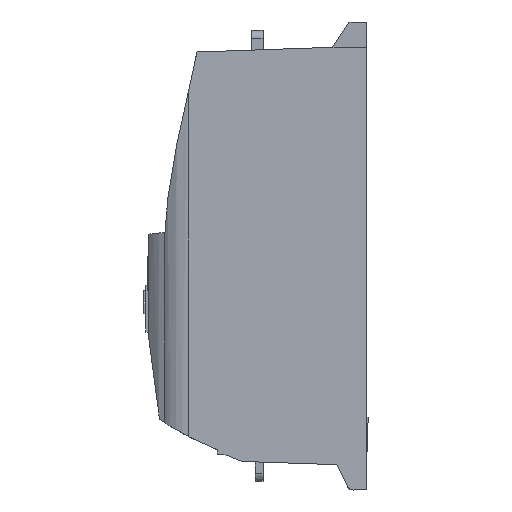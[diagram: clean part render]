
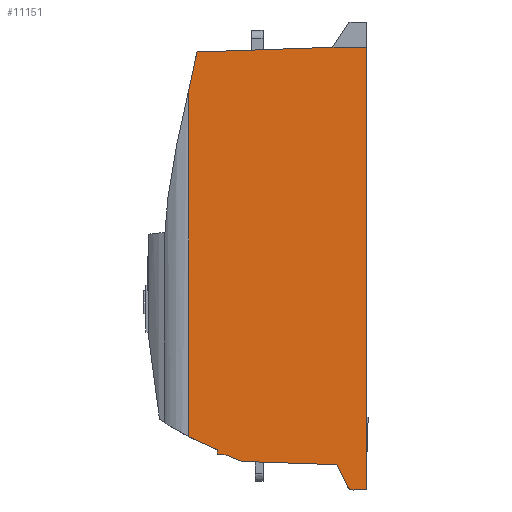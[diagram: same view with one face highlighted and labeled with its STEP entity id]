
A CAD part, left-side view. The second image highlights one B-rep face of the part: STEP entity #11151.
In plain terms, the highlighted planar face has unit normal (-0.999, -0.035, 0).
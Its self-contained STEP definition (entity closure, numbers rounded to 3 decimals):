
#207=DIRECTION('',(0.,0.,-1.));
#208=VECTOR('',#207,458.743);
#209=CARTESIAN_POINT('',(-110.52,0.2,209.072));
#210=LINE('',#209,#208);
#351=DIRECTION('',(-0.015,0.439,0.899));
#352=VECTOR('',#351,25.467);
#353=CARTESIAN_POINT('',(-111.208,19.908,-246.798));
#354=LINE('',#353,#352);
#435=DIRECTION('',(-0.035,0.999,0.035));
#436=VECTOR('',#435,98.727);
#437=CARTESIAN_POINT('',(-111.598,31.076,-223.914));
#438=LINE('',#437,#436);
#1069=DIRECTION('',(-0.035,0.999,0.));
#1070=VECTOR('',#1069,36.022);
#1071=CARTESIAN_POINT('',(-110.52,0.2,
209.072));
#1072=LINE('',#1071,#1070);
#1113=DIRECTION('',(-0.035,0.999,-0.035));
#1114=VECTOR('',#1113,14.124);
#1115=CARTESIAN_POINT('',(-110.52,0.2,
-249.671));
#1116=LINE('',#1115,#1114);
#1189=CARTESIAN_POINT('',(-111.013,14.307,
-250.163));
#1190=CARTESIAN_POINT('',(-111.035,14.956,
-250.186));
#1191=CARTESIAN_POINT('',(-111.076,16.13,
-250.026));
#1192=CARTESIAN_POINT('',(-111.129,17.643,
-249.373));
#1193=CARTESIAN_POINT('',(-111.174,18.931,
-248.344));
#1194=CARTESIAN_POINT('',(-111.198,19.624,
-247.382));
#1195=CARTESIAN_POINT('',(-111.208,19.908,
-246.798));
#1354=CARTESIAN_POINT('',(-115.039,129.682,
-220.471));
#1355=CARTESIAN_POINT('',(-115.259,135.98,
-218.327));
#1356=CARTESIAN_POINT('',(-115.475,142.164,
-215.893));
#1357=CARTESIAN_POINT('',(-115.687,148.233,
-213.168));
#1367=DIRECTION('',(-0.035,0.999,0.));
#1368=VECTOR('',#1367,7.238);
#1369=CARTESIAN_POINT('',(-115.687,148.233,
-213.168));
#1370=LINE('',#1369,#1368);
#1379=DIRECTION('',(0.,0.,1.));
#1380=VECTOR('',#1379,5.067);
#1381=CARTESIAN_POINT('',(-115.939,155.467,
-213.168));
#1382=LINE('',#1381,#1380);
#1486=CARTESIAN_POINT('',(-115.939,155.467,
-208.1));
#1487=CARTESIAN_POINT('',(-116.289,165.495,
-204.171));
#1488=CARTESIAN_POINT('',(-116.631,175.284,
-199.716));
#1489=CARTESIAN_POINT('',(-116.964,184.833,
-194.733));
#1593=CARTESIAN_POINT('',(-116.964,184.833,162.002));
#1744=CARTESIAN_POINT('',(-116.667,176.327,204.179));
#1745=CARTESIAN_POINT('',(-116.756,178.89,190.79));
#1746=CARTESIAN_POINT('',(-116.855,181.725,177.458));
#1747=CARTESIAN_POINT('',(-116.964,184.833,164.185));
#3111=DIRECTION('',(0.035,-0.999,0.035));
#3112=VECTOR('',#3111,140.297);
#3113=CARTESIAN_POINT('',(-116.667,176.327,204.179));
#3114=LINE('',#3113,#3112);
#4458=DIRECTION('',(0.,0.,1.));
#4459=VECTOR('',#4458,350.605);
#4460=CARTESIAN_POINT('',(-116.964,184.833,
-194.733));
#4461=LINE('',#4460,#4459);
#4462=DIRECTION('',(0.,0.,1.));
#4463=VECTOR('',#4462,2.183);
#4464=CARTESIAN_POINT('',(-116.964,184.833,162.002));
#4465=LINE('',#4464,#4463);
#4477=DIRECTION('',(0.,0.,1.));
#4478=VECTOR('',#4477,6.13);
#4479=CARTESIAN_POINT('',(-116.964,184.833,155.872));
#4480=LINE('',#4479,#4478);
#8583=CARTESIAN_POINT('',(-110.52,0.2,
-249.671));
#8584=CARTESIAN_POINT('',(-111.013,14.307,
-250.163));
#8585=VERTEX_POINT('',#8583);
#8586=VERTEX_POINT('',#8584);
#8588=VERTEX_POINT('',#1195);
#8591=CARTESIAN_POINT('',(-111.598,31.076,
-223.914));
#8592=VERTEX_POINT('',#8591);
#8595=CARTESIAN_POINT('',(-115.039,129.682,
-220.471));
#8596=VERTEX_POINT('',#8595);
#8598=VERTEX_POINT('',#1357);
#8601=CARTESIAN_POINT('',(-115.939,155.467,
-213.168));
#8602=VERTEX_POINT('',#8601);
#8605=CARTESIAN_POINT('',(-115.939,155.467,
-208.1));
#8606=VERTEX_POINT('',#8605);
#8610=VERTEX_POINT('',#1489);
#8631=VERTEX_POINT('',#1744);
#8632=VERTEX_POINT('',#1747);
#9330=VERTEX_POINT('',#1593);
#9335=CARTESIAN_POINT('',(-116.964,184.833,155.872));
#9337=VERTEX_POINT('',#9335);
#9439=CARTESIAN_POINT('',(-110.52,0.2,
209.072));
#9441=VERTEX_POINT('',#9439);
#9495=CARTESIAN_POINT('',(-111.777,36.2,209.072));
#9497=VERTEX_POINT('',#9495);
#11118=CARTESIAN_POINT('',(-110.52,0.2,-298.781));
#11119=DIRECTION('',(0.999,0.035,0.));
#11120=DIRECTION('',(-0.035,0.999,0.));
#11121=AXIS2_PLACEMENT_3D('',#11118,#11119,#11120);
#11122=PLANE('',#11121);
#11123=ORIENTED_EDGE('',*,*,#11110,.F.);
#11124=ORIENTED_EDGE('',*,*,#9975,.T.);
#11126=ORIENTED_EDGE('',*,*,#11125,.T.);
#11128=ORIENTED_EDGE('',*,*,#11127,.T.);
#11129=ORIENTED_EDGE('',*,*,#10149,.T.);
#11130=ORIENTED_EDGE('',*,*,#10247,.T.);
#11132=ORIENTED_EDGE('',*,*,#11131,.T.);
#11134=ORIENTED_EDGE('',*,*,#11133,.T.);
#11136=ORIENTED_EDGE('',*,*,#11135,.T.);
#11138=ORIENTED_EDGE('',*,*,#11137,.T.);
#11140=ORIENTED_EDGE('',*,*,#11139,.T.);
#11142=ORIENTED_EDGE('',*,*,#11141,.T.);
#11144=ORIENTED_EDGE('',*,*,#11143,.T.);
#11146=ORIENTED_EDGE('',*,*,#11145,.F.);
#11148=ORIENTED_EDGE('',*,*,#11147,.T.);
#11149=EDGE_LOOP('',(#11123,#11124,#11126,#11128,#11129,#11130,#11132,#11134,
#11136,#11138,#11140,#11142,#11144,#11146,#11148));
#11150=FACE_OUTER_BOUND('',#11149,.F.);
#11151=ADVANCED_FACE('',(#11150),#11122,.F.);
#1196=B_SPLINE_CURVE_WITH_KNOTS('',3,(#1189,#1190,#1191,#1192,#1193,#1194,
#1195),.UNSPECIFIED.,.F.,.F.,(4,1,1,1,4),(0.,0.25,0.5,0.75,1.),
.UNSPECIFIED.);
#1358=B_SPLINE_CURVE_WITH_KNOTS('',3,(#1354,#1355,#1356,#1357),.UNSPECIFIED.,
.F.,.F.,(4,4),(0.,1.),.UNSPECIFIED.);
#1490=B_SPLINE_CURVE_WITH_KNOTS('',3,(#1486,#1487,#1488,#1489),.UNSPECIFIED.,
.F.,.F.,(4,4),(0.,1.),.UNSPECIFIED.);
#1748=B_SPLINE_CURVE_WITH_KNOTS('',3,(#1744,#1745,#1746,#1747),.UNSPECIFIED.,
.F.,.F.,(4,4),(0.,1.),.UNSPECIFIED.);
#9975=EDGE_CURVE('',#9441,#8585,#210,.T.);
#10149=EDGE_CURVE('',#8588,#8592,#354,.T.);
#10247=EDGE_CURVE('',#8592,#8596,#438,.T.);
#11110=EDGE_CURVE('',#9441,#9497,#1072,.T.);
#11125=EDGE_CURVE('',#8585,#8586,#1116,.T.);
#11127=EDGE_CURVE('',#8586,#8588,#1196,.T.);
#11131=EDGE_CURVE('',#8596,#8598,#1358,.T.);
#11133=EDGE_CURVE('',#8598,#8602,#1370,.T.);
#11135=EDGE_CURVE('',#8602,#8606,#1382,.T.);
#11137=EDGE_CURVE('',#8606,#8610,#1490,.T.);
#11139=EDGE_CURVE('',#8610,#9337,#4461,.T.);
#11141=EDGE_CURVE('',#9337,#9330,#4480,.T.);
#11143=EDGE_CURVE('',#9330,#8632,#4465,.T.);
#11145=EDGE_CURVE('',#8631,#8632,#1748,.T.);
#11147=EDGE_CURVE('',#8631,#9497,#3114,.T.);
